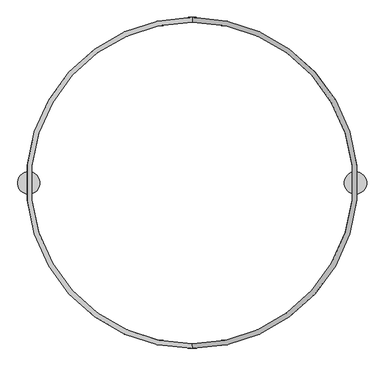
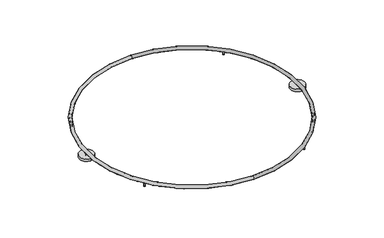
"""IFC4 building model written with IfcOpenShell, lengths in millimetres: light fixture geometry, ARTEMIDE-AoL-StandAlone-Circular_WallCeiling : StandALone_WallCeiling_Circular-3500mm 21478lm 3000K."""

from ifc_helpers import new_model, si_unit, point, frame, frame_2d, origin, origin_with_axes, origin_2d, place, context, project, spatial, polyline, circle_curve, ellipse_curve, trimmed, segment, composite_curve, outline, extrude, source, transform, mapped, element, save
from ifc_brep_helpers import plane_surface, cylinder_surface, revolved_surface, advanced_brep


def light_fixture_6dad4d7d(model_context):
    return source(origin(), model_context, "Body", "SolidModel", [
        advanced_brep(
        [(3444.5, 0.0, 0.0), (3455.5, 0.0, 0.0), (3450.0, 0.0, 0.0), (3444.5, 0.0, 1.0), (3455.5, 0.0, 1.0), (3438.0, 0.0, 1.0), (3462.0, 0.0, 1.0), (3438.0, 0.0, 42.5), (3462.0, 0.0, 42.5), (3440.4756244, 0.0, 42.5), (3459.5243756, 0.0, 42.5), (3440.4756244, 0.0, 43.4995055), (3459.5243756, 0.0, 43.4995055), (3438.0, 0.0, 43.4995055), (3462.0, 0.0, 43.4995055), (3438.0, 0.0, 52.9579379), (3462.0, 0.0, 52.9579379), (3450.0, 0.0, 52.9579379)],
        [
            (0, 1, circle_curve(frame((3450.0, 0.0, 0.0), z_axis=(0.0, 0.0, -1.0), x_axis=(1.0, 0.0, 0.0)), 5.5)),
            (1, 2),
            (2, 0),
            (1, 0, circle_curve(frame((3450.0, 0.0, 0.0), z_axis=(0.0, 0.0, -1.0), x_axis=(1.0, 0.0, 0.0)), 5.5)),
            (3, 4, circle_curve(frame((3450.0, 0.0, 1.0), z_axis=(0.0, 0.0, -1.0), x_axis=(1.0, 0.0, 0.0)), 5.5)),
            (4, 1),
            (0, 3),
            (4, 3, circle_curve(frame((3450.0, 0.0, 1.0), z_axis=(0.0, 0.0, -1.0), x_axis=(1.0, 0.0, 0.0)), 5.5)),
            (5, 6, circle_curve(frame((3450.0, 0.0, 1.0), z_axis=(0.0, 0.0, -1.0), x_axis=(1.0, 0.0, 0.0)), 12.0)),
            (6, 4),
            (3, 5),
            (6, 5, circle_curve(frame((3450.0, 0.0, 1.0), z_axis=(0.0, 0.0, -1.0), x_axis=(1.0, 0.0, 0.0)), 12.0)),
            (7, 8, circle_curve(frame((3450.0, 0.0, 42.5), z_axis=(0.0, 0.0, -1.0), x_axis=(1.0, 0.0, 0.0)), 12.0)),
            (8, 6),
            (5, 7),
            (8, 7, circle_curve(frame((3450.0, 0.0, 42.5), z_axis=(0.0, 0.0, -1.0), x_axis=(1.0, 0.0, 0.0)), 12.0)),
            (9, 10, circle_curve(frame((3450.0, 0.0, 42.5), z_axis=(0.0, 0.0, -1.0), x_axis=(1.0, 0.0, 0.0)), 9.5243756)),
            (10, 8),
            (7, 9),
            (10, 9, circle_curve(frame((3450.0, 0.0, 42.5), z_axis=(0.0, 0.0, -1.0), x_axis=(1.0, 0.0, 0.0)), 9.5243756)),
            (11, 12, circle_curve(frame((3450.0, 0.0, 43.4995055), z_axis=(0.0, 0.0, -1.0), x_axis=(1.0, 0.0, 0.0)), 9.5243756)),
            (12, 10),
            (9, 11),
            (12, 11, circle_curve(frame((3450.0, 0.0, 43.4995055), z_axis=(0.0, 0.0, -1.0), x_axis=(1.0, 0.0, 0.0)), 9.5243756)),
            (13, 14, circle_curve(frame((3450.0, 0.0, 43.4995055), z_axis=(0.0, 0.0, -1.0), x_axis=(1.0, 0.0, 0.0)), 12.0)),
            (14, 12),
            (11, 13),
            (14, 13, circle_curve(frame((3450.0, 0.0, 43.4995055), z_axis=(0.0, 0.0, -1.0), x_axis=(1.0, 0.0, 0.0)), 12.0)),
            (15, 16, circle_curve(frame((3450.0, 0.0, 52.9579379), z_axis=(0.0, 0.0, -1.0), x_axis=(1.0, 0.0, 0.0)), 12.0)),
            (16, 14),
            (13, 15),
            (16, 15, circle_curve(frame((3450.0, 0.0, 52.9579379), z_axis=(0.0, 0.0, -1.0), x_axis=(1.0, 0.0, 0.0)), 12.0)),
            (17, 16),
            (15, 17),
        ],
        [
            plane_surface(frame((3450.0, 0.0, 0.0), z_axis=(0.0, 0.0, -1.0), x_axis=(1.0, 0.0, 0.0))),
            cylinder_surface(frame((3450.0, 0.0, -58.83358), z_axis=(0.0, 0.0, 1.0), x_axis=(1.0, 0.0, 0.0)), 5.5),
            plane_surface(frame((3450.0, 0.0, 1.0), z_axis=(0.0, 0.0, -1.0), x_axis=(1.0, 0.0, 0.0))),
            cylinder_surface(frame((3450.0, 0.0, -58.83358), z_axis=(0.0, 0.0, 1.0), x_axis=(1.0, 0.0, 0.0)), 12.0),
            plane_surface(frame((3450.0, 0.0, 42.5), z_axis=(0.0, 0.0, 1.0), x_axis=(1.0, 0.0, 0.0))),
            cylinder_surface(frame((3450.0, 0.0, -58.83358), z_axis=(0.0, 0.0, 1.0), x_axis=(1.0, 0.0, 0.0)), 9.5243756),
            plane_surface(frame((3450.0, 0.0, 43.4995055), z_axis=(0.0, 0.0, -1.0), x_axis=(1.0, 0.0, 0.0))),
            plane_surface(frame((3450.0, 0.0, 52.9579379), z_axis=(0.0, 0.0, 1.0), x_axis=(1.0, 0.0, 0.0))),
        ],
        [
            (0, [[1, 2, 3]]),
            (0, [[4, -3, -2]]),
            (1, [[5, 6, -1, 7]]),
            (1, [[8, -7, -4, -6]]),
            (2, [[9, 10, -5, 11]]),
            (2, [[12, -11, -8, -10]]),
            (3, [[13, 14, -9, 15]]),
            (3, [[16, -15, -12, -14]]),
            (4, [[17, 18, -13, 19]]),
            (4, [[20, -19, -16, -18]]),
            (5, [[21, 22, -17, 23]]),
            (5, [[24, -23, -20, -22]]),
            (6, [[25, 26, -21, 27]]),
            (6, [[28, -27, -24, -26]]),
            (3, [[29, 30, -25, 31]]),
            (3, [[32, -31, -28, -30]]),
            (7, [[33, -29, 34]]),
            (7, [[-34, -32, -33]]),
        ],
    ),
        advanced_brep(
        [(-5.5, 0.0, 0.0), (5.5, 0.0, 0.0), (0.0, 0.0, 0.0), (-5.5, 0.0, 1.0), (5.5, 0.0, 1.0), (-12.0, 0.0, 1.0), (12.0, 0.0, 1.0), (-12.0, 0.0, 42.5), (12.0, 0.0, 42.5), (-9.5243756, 0.0, 42.5), (9.5243756, 0.0, 42.5), (-9.5243756, 0.0, 43.4995055), (9.5243756, 0.0, 43.4995055), (-12.0, 0.0, 43.4995055), (12.0, 0.0, 43.4995055), (-12.0, 0.0, 52.9579379), (12.0, 0.0, 52.9579379), (0.0, 0.0, 52.9579379)],
        [
            (0, 1, circle_curve(frame((0.0, 0.0, 0.0), z_axis=(0.0, 0.0, -1.0), x_axis=(1.0, 0.0, 0.0)), 5.5)),
            (1, 2),
            (2, 0),
            (1, 0, circle_curve(frame((0.0, 0.0, 0.0), z_axis=(0.0, 0.0, -1.0), x_axis=(1.0, 0.0, 0.0)), 5.5)),
            (3, 4, circle_curve(frame((0.0, 0.0, 1.0), z_axis=(0.0, 0.0, -1.0), x_axis=(1.0, 0.0, 0.0)), 5.5)),
            (4, 1),
            (0, 3),
            (4, 3, circle_curve(frame((0.0, 0.0, 1.0), z_axis=(0.0, 0.0, -1.0), x_axis=(1.0, 0.0, 0.0)), 5.5)),
            (5, 6, circle_curve(frame((0.0, 0.0, 1.0), z_axis=(0.0, 0.0, -1.0), x_axis=(1.0, 0.0, 0.0)), 12.0)),
            (6, 4),
            (3, 5),
            (6, 5, circle_curve(frame((0.0, 0.0, 1.0), z_axis=(0.0, 0.0, -1.0), x_axis=(1.0, 0.0, 0.0)), 12.0)),
            (7, 8, circle_curve(frame((0.0, 0.0, 42.5), z_axis=(0.0, 0.0, -1.0), x_axis=(1.0, 0.0, 0.0)), 12.0)),
            (8, 6),
            (5, 7),
            (8, 7, circle_curve(frame((0.0, 0.0, 42.5), z_axis=(0.0, 0.0, -1.0), x_axis=(1.0, 0.0, 0.0)), 12.0)),
            (9, 10, circle_curve(frame((0.0, 0.0, 42.5), z_axis=(0.0, 0.0, -1.0), x_axis=(1.0, 0.0, 0.0)), 9.5243756)),
            (10, 8),
            (7, 9),
            (10, 9, circle_curve(frame((0.0, 0.0, 42.5), z_axis=(0.0, 0.0, -1.0), x_axis=(1.0, 0.0, 0.0)), 9.5243756)),
            (11, 12, circle_curve(frame((0.0, 0.0, 43.4995055), z_axis=(0.0, 0.0, -1.0), x_axis=(1.0, 0.0, 0.0)), 9.5243756)),
            (12, 10),
            (9, 11),
            (12, 11, circle_curve(frame((0.0, 0.0, 43.4995055), z_axis=(0.0, 0.0, -1.0), x_axis=(1.0, 0.0, 0.0)), 9.5243756)),
            (13, 14, circle_curve(frame((0.0, 0.0, 43.4995055), z_axis=(0.0, 0.0, -1.0), x_axis=(1.0, 0.0, 0.0)), 12.0)),
            (14, 12),
            (11, 13),
            (14, 13, circle_curve(frame((0.0, 0.0, 43.4995055), z_axis=(0.0, 0.0, -1.0), x_axis=(1.0, 0.0, 0.0)), 12.0)),
            (15, 16, circle_curve(frame((0.0, 0.0, 52.9579379), z_axis=(0.0, 0.0, -1.0), x_axis=(1.0, 0.0, 0.0)), 12.0)),
            (16, 14),
            (13, 15),
            (16, 15, circle_curve(frame((0.0, 0.0, 52.9579379), z_axis=(0.0, 0.0, -1.0), x_axis=(1.0, 0.0, 0.0)), 12.0)),
            (17, 16),
            (15, 17),
        ],
        [
            plane_surface(frame((0.0, 0.0, 0.0), z_axis=(0.0, 0.0, -1.0), x_axis=(1.0, 0.0, 0.0))),
            cylinder_surface(frame((0.0, 0.0, -58.83358), z_axis=(0.0, 0.0, 1.0), x_axis=(1.0, 0.0, 0.0)), 5.5),
            plane_surface(frame((0.0, 0.0, 1.0), z_axis=(0.0, 0.0, -1.0), x_axis=(1.0, 0.0, 0.0))),
            cylinder_surface(frame((0.0, 0.0, -58.83358), z_axis=(0.0, 0.0, 1.0), x_axis=(1.0, 0.0, 0.0)), 12.0),
            plane_surface(frame((0.0, 0.0, 42.5), z_axis=(0.0, 0.0, 1.0), x_axis=(1.0, 0.0, 0.0))),
            cylinder_surface(frame((0.0, 0.0, -58.83358), z_axis=(0.0, 0.0, 1.0), x_axis=(1.0, 0.0, 0.0)), 9.5243756),
            plane_surface(frame((0.0, 0.0, 43.4995055), z_axis=(0.0, 0.0, -1.0), x_axis=(1.0, 0.0, 0.0))),
            plane_surface(frame((0.0, 0.0, 52.9579379), z_axis=(0.0, 0.0, 1.0), x_axis=(1.0, 0.0, 0.0))),
        ],
        [
            (0, [[1, 2, 3]]),
            (0, [[4, -3, -2]]),
            (1, [[5, 6, -1, 7]]),
            (1, [[8, -7, -4, -6]]),
            (2, [[9, 10, -5, 11]]),
            (2, [[12, -11, -8, -10]]),
            (3, [[13, 14, -9, 15]]),
            (3, [[16, -15, -12, -14]]),
            (4, [[17, 18, -13, 19]]),
            (4, [[20, -19, -16, -18]]),
            (5, [[21, 22, -17, 23]]),
            (5, [[24, -23, -20, -22]]),
            (6, [[25, 26, -21, 27]]),
            (6, [[28, -27, -24, -26]]),
            (3, [[29, 30, -25, 31]]),
            (3, [[32, -31, -28, -30]]),
            (7, [[33, -29, 34]]),
            (7, [[-34, -32, -33]]),
        ],
    ),
        extrude(outline(composite_curve([segment(trimmed(circle_curve(frame_2d((3450.0, 0.0)), 118.5), [point((3450.0, 118.5))], [point((3450.0, -118.5))], False, "CARTESIAN"), True, "CONTINUOUS"), segment(trimmed(circle_curve(frame_2d((3450.0, 0.0)), 118.5), [point((3450.0, -118.5))], [point((3450.0, 118.5))], False, "CARTESIAN"), True, "CONTINUOUS")], self_intersect=False)), origin_with_axes(), (0.0, 0.0, 1.0), 42.0),
        advanced_brep(
        [(510.5, 1219.7591975, 0.0), (499.5, 1219.7591975, 0.0), (505.0, 1219.7591975, 0.0), (510.5, 1219.7591975, 1.0), (499.5, 1219.7591975, 1.0), (517.0, 1219.7591975, 1.0), (493.0, 1219.7591975, 1.0), (517.0, 1219.7591975, 42.5), (493.0, 1219.7591975, 42.5), (514.5243756, 1219.7591975, 42.5), (495.4756244, 1219.7591975, 42.5), (514.5243756, 1219.7591975, 43.4995055), (495.4756244, 1219.7591975, 43.4995055), (517.0, 1219.7591975, 43.4995055), (493.0, 1219.7591975, 43.4995055), (517.0, 1219.7591975, 52.9579379), (493.0, 1219.7591975, 52.9579379), (505.0, 1219.7591975, 52.9579379)],
        [
            (0, 1, circle_curve(frame((505.0, 1219.7591975, 0.0), z_axis=(0.0, 0.0, -1.0), x_axis=(-1.0, 0.0, 0.0)), 5.5)),
            (1, 2),
            (2, 0),
            (1, 0, circle_curve(frame((505.0, 1219.7591975, 0.0), z_axis=(0.0, 0.0, -1.0), x_axis=(-1.0, 0.0, 0.0)), 5.5)),
            (3, 4, circle_curve(frame((505.0, 1219.7591975, 1.0), z_axis=(0.0, 0.0, -1.0), x_axis=(-1.0, 0.0, 0.0)), 5.5)),
            (4, 1),
            (0, 3),
            (4, 3, circle_curve(frame((505.0, 1219.7591975, 1.0), z_axis=(0.0, 0.0, -1.0), x_axis=(-1.0, 0.0, 0.0)), 5.5)),
            (5, 6, circle_curve(frame((505.0, 1219.7591975, 1.0), z_axis=(0.0, 0.0, -1.0), x_axis=(-1.0, 0.0, 0.0)), 12.0)),
            (6, 4),
            (3, 5),
            (6, 5, circle_curve(frame((505.0, 1219.7591975, 1.0), z_axis=(0.0, 0.0, -1.0), x_axis=(-1.0, 0.0, 0.0)), 12.0)),
            (7, 8, circle_curve(frame((505.0, 1219.7591975, 42.5), z_axis=(0.0, 0.0, -1.0), x_axis=(-1.0, 0.0, 0.0)), 12.0)),
            (8, 6),
            (5, 7),
            (8, 7, circle_curve(frame((505.0, 1219.7591975, 42.5), z_axis=(0.0, 0.0, -1.0), x_axis=(-1.0, 0.0, 0.0)), 12.0)),
            (9, 10, circle_curve(frame((505.0, 1219.7591975, 42.5), z_axis=(0.0, 0.0, -1.0), x_axis=(-1.0, 0.0, 0.0)), 9.5243756)),
            (10, 8),
            (7, 9),
            (10, 9, circle_curve(frame((505.0, 1219.7591975, 42.5), z_axis=(0.0, 0.0, -1.0), x_axis=(-1.0, 0.0, 0.0)), 9.5243756)),
            (11, 12, circle_curve(frame((505.0, 1219.7591975, 43.4995055), z_axis=(0.0, 0.0, -1.0), x_axis=(-1.0, 0.0, 0.0)), 9.5243756)),
            (12, 10),
            (9, 11),
            (12, 11, circle_curve(frame((505.0, 1219.7591975, 43.4995055), z_axis=(0.0, 0.0, -1.0), x_axis=(-1.0, 0.0, 0.0)), 9.5243756)),
            (13, 14, circle_curve(frame((505.0, 1219.7591975, 43.4995055), z_axis=(0.0, 0.0, -1.0), x_axis=(-1.0, 0.0, 0.0)), 12.0)),
            (14, 12),
            (11, 13),
            (14, 13, circle_curve(frame((505.0, 1219.7591975, 43.4995055), z_axis=(0.0, 0.0, -1.0), x_axis=(-1.0, 0.0, 0.0)), 12.0)),
            (15, 16, circle_curve(frame((505.0, 1219.7591975, 52.9579379), z_axis=(0.0, 0.0, -1.0), x_axis=(-1.0, 0.0, 0.0)), 12.0)),
            (16, 14),
            (13, 15),
            (16, 15, circle_curve(frame((505.0, 1219.7591975, 52.9579379), z_axis=(0.0, 0.0, -1.0), x_axis=(-1.0, 0.0, 0.0)), 12.0)),
            (17, 16),
            (15, 17),
        ],
        [
            plane_surface(frame((505.0, 1219.7591975, 0.0), z_axis=(0.0, 0.0, -1.0), x_axis=(-1.0, 0.0, 0.0))),
            cylinder_surface(frame((505.0, 1219.7591975, -58.83358), z_axis=(0.0, 0.0, 1.0), x_axis=(-1.0, 0.0, 0.0)), 5.5),
            plane_surface(frame((505.0, 1219.7591975, 1.0), z_axis=(0.0, 0.0, -1.0), x_axis=(-1.0, 0.0, 0.0))),
            cylinder_surface(frame((505.0, 1219.7591975, -58.83358), z_axis=(0.0, 0.0, 1.0), x_axis=(-1.0, 0.0, 0.0)), 12.0),
            plane_surface(frame((505.0, 1219.7591975, 42.5), z_axis=(0.0, 0.0, 1.0), x_axis=(-1.0, 0.0, 0.0))),
            cylinder_surface(frame((505.0, 1219.7591975, -58.83358), z_axis=(0.0, 0.0, 1.0), x_axis=(-1.0, 0.0, 0.0)), 9.5243756),
            plane_surface(frame((505.0, 1219.7591975, 43.4995055), z_axis=(0.0, 0.0, -1.0), x_axis=(-1.0, 0.0, 0.0))),
            plane_surface(frame((505.0, 1219.7591975, 52.9579379), z_axis=(0.0, 0.0, 1.0), x_axis=(-1.0, 0.0, 0.0))),
        ],
        [
            (0, [[1, 2, 3]]),
            (0, [[4, -3, -2]]),
            (1, [[5, 6, -1, 7]]),
            (1, [[8, -7, -4, -6]]),
            (2, [[9, 10, -5, 11]]),
            (2, [[12, -11, -8, -10]]),
            (3, [[13, 14, -9, 15]]),
            (3, [[16, -15, -12, -14]]),
            (4, [[17, 18, -13, 19]]),
            (4, [[20, -19, -16, -18]]),
            (5, [[21, 22, -17, 23]]),
            (5, [[24, -23, -20, -22]]),
            (6, [[25, 26, -21, 27]]),
            (6, [[28, -27, -24, -26]]),
            (3, [[29, 30, -25, 31]]),
            (3, [[32, -31, -28, -30]]),
            (7, [[33, -29, 34]]),
            (7, [[-34, -32, -33]]),
        ],
    ),
        advanced_brep(
        [(2950.5, 1219.7591975, 0.0), (2939.5, 1219.7591975, 0.0), (2945.0, 1219.7591975, 0.0), (2950.5, 1219.7591975, 1.0), (2939.5, 1219.7591975, 1.0), (2957.0, 1219.7591975, 1.0), (2933.0, 1219.7591975, 1.0), (2957.0, 1219.7591975, 42.5), (2933.0, 1219.7591975, 42.5), (2954.5243756, 1219.7591975, 42.5), (2935.4756244, 1219.7591975, 42.5), (2954.5243756, 1219.7591975, 43.4995055), (2935.4756244, 1219.7591975, 43.4995055), (2957.0, 1219.7591975, 43.4995055), (2933.0, 1219.7591975, 43.4995055), (2957.0, 1219.7591975, 52.9579379), (2933.0, 1219.7591975, 52.9579379), (2945.0, 1219.7591975, 52.9579379)],
        [
            (0, 1, circle_curve(frame((2945.0, 1219.7591975, 0.0), z_axis=(0.0, 0.0, -1.0), x_axis=(-1.0, 0.0, 0.0)), 5.5)),
            (1, 2),
            (2, 0),
            (1, 0, circle_curve(frame((2945.0, 1219.7591975, 0.0), z_axis=(0.0, 0.0, -1.0), x_axis=(-1.0, 0.0, 0.0)), 5.5)),
            (3, 4, circle_curve(frame((2945.0, 1219.7591975, 1.0), z_axis=(0.0, 0.0, -1.0), x_axis=(-1.0, 0.0, 0.0)), 5.5)),
            (4, 1),
            (0, 3),
            (4, 3, circle_curve(frame((2945.0, 1219.7591975, 1.0), z_axis=(0.0, 0.0, -1.0), x_axis=(-1.0, 0.0, 0.0)), 5.5)),
            (5, 6, circle_curve(frame((2945.0, 1219.7591975, 1.0), z_axis=(0.0, 0.0, -1.0), x_axis=(-1.0, 0.0, 0.0)), 12.0)),
            (6, 4),
            (3, 5),
            (6, 5, circle_curve(frame((2945.0, 1219.7591975, 1.0), z_axis=(0.0, 0.0, -1.0), x_axis=(-1.0, 0.0, 0.0)), 12.0)),
            (7, 8, circle_curve(frame((2945.0, 1219.7591975, 42.5), z_axis=(0.0, 0.0, -1.0), x_axis=(-1.0, 0.0, 0.0)), 12.0)),
            (8, 6),
            (5, 7),
            (8, 7, circle_curve(frame((2945.0, 1219.7591975, 42.5), z_axis=(0.0, 0.0, -1.0), x_axis=(-1.0, 0.0, 0.0)), 12.0)),
            (9, 10, circle_curve(frame((2945.0, 1219.7591975, 42.5), z_axis=(0.0, 0.0, -1.0), x_axis=(-1.0, 0.0, 0.0)), 9.5243756)),
            (10, 8),
            (7, 9),
            (10, 9, circle_curve(frame((2945.0, 1219.7591975, 42.5), z_axis=(0.0, 0.0, -1.0), x_axis=(-1.0, 0.0, 0.0)), 9.5243756)),
            (11, 12, circle_curve(frame((2945.0, 1219.7591975, 43.4995055), z_axis=(0.0, 0.0, -1.0), x_axis=(-1.0, 0.0, 0.0)), 9.5243756)),
            (12, 10),
            (9, 11),
            (12, 11, circle_curve(frame((2945.0, 1219.7591975, 43.4995055), z_axis=(0.0, 0.0, -1.0), x_axis=(-1.0, 0.0, 0.0)), 9.5243756)),
            (13, 14, circle_curve(frame((2945.0, 1219.7591975, 43.4995055), z_axis=(0.0, 0.0, -1.0), x_axis=(-1.0, 0.0, 0.0)), 12.0)),
            (14, 12),
            (11, 13),
            (14, 13, circle_curve(frame((2945.0, 1219.7591975, 43.4995055), z_axis=(0.0, 0.0, -1.0), x_axis=(-1.0, 0.0, 0.0)), 12.0)),
            (15, 16, circle_curve(frame((2945.0, 1219.7591975, 52.9579379), z_axis=(0.0, 0.0, -1.0), x_axis=(-1.0, 0.0, 0.0)), 12.0)),
            (16, 14),
            (13, 15),
            (16, 15, circle_curve(frame((2945.0, 1219.7591975, 52.9579379), z_axis=(0.0, 0.0, -1.0), x_axis=(-1.0, 0.0, 0.0)), 12.0)),
            (17, 16),
            (15, 17),
        ],
        [
            plane_surface(frame((2945.0, 1219.7591975, 0.0), z_axis=(0.0, 0.0, -1.0), x_axis=(-1.0, 0.0, 0.0))),
            cylinder_surface(frame((2945.0, 1219.7591975, -58.83358), z_axis=(0.0, 0.0, 1.0), x_axis=(-1.0, 0.0, 0.0)), 5.5),
            plane_surface(frame((2945.0, 1219.7591975, 1.0), z_axis=(0.0, 0.0, -1.0), x_axis=(-1.0, 0.0, 0.0))),
            cylinder_surface(frame((2945.0, 1219.7591975, -58.83358), z_axis=(0.0, 0.0, 1.0), x_axis=(-1.0, 0.0, 0.0)), 12.0),
            plane_surface(frame((2945.0, 1219.7591975, 42.5), z_axis=(0.0, 0.0, 1.0), x_axis=(-1.0, 0.0, 0.0))),
            cylinder_surface(frame((2945.0, 1219.7591975, -58.83358), z_axis=(0.0, 0.0, 1.0), x_axis=(-1.0, 0.0, 0.0)), 9.5243756),
            plane_surface(frame((2945.0, 1219.7591975, 43.4995055), z_axis=(0.0, 0.0, -1.0), x_axis=(-1.0, 0.0, 0.0))),
            plane_surface(frame((2945.0, 1219.7591975, 52.9579379), z_axis=(0.0, 0.0, 1.0), x_axis=(-1.0, 0.0, 0.0))),
        ],
        [
            (0, [[1, 2, 3]]),
            (0, [[4, -3, -2]]),
            (1, [[5, 6, -1, 7]]),
            (1, [[8, -7, -4, -6]]),
            (2, [[9, 10, -5, 11]]),
            (2, [[12, -11, -8, -10]]),
            (3, [[13, 14, -9, 15]]),
            (3, [[16, -15, -12, -14]]),
            (4, [[17, 18, -13, 19]]),
            (4, [[20, -19, -16, -18]]),
            (5, [[21, 22, -17, 23]]),
            (5, [[24, -23, -20, -22]]),
            (6, [[25, 26, -21, 27]]),
            (6, [[28, -27, -24, -26]]),
            (3, [[29, 30, -25, 31]]),
            (3, [[32, -31, -28, -30]]),
            (7, [[33, -29, 34]]),
            (7, [[-34, -32, -33]]),
        ],
    ),
        advanced_brep(
        [(355.5, -1038.0, 0.0), (344.5, -1038.0, 0.0), (350.0, -1038.0, 0.0), (355.5, -1038.0, 1.0), (344.5, -1038.0, 1.0), (362.0, -1038.0, 1.0), (338.0, -1038.0, 1.0), (362.0, -1038.0, 42.5), (338.0, -1038.0, 42.5), (359.5243756, -1038.0, 42.5), (340.4756244, -1038.0, 42.5), (359.5243756, -1038.0, 43.4995055), (340.4756244, -1038.0, 43.4995055), (362.0, -1038.0, 43.4995055), (338.0, -1038.0, 43.4995055), (362.0, -1038.0, 52.9579379), (338.0, -1038.0, 52.9579379), (350.0, -1038.0, 52.9579379)],
        [
            (0, 1, circle_curve(frame((350.0, -1038.0, 0.0), z_axis=(0.0, 0.0, -1.0), x_axis=(-1.0, 0.0, 0.0)), 5.5)),
            (1, 2),
            (2, 0),
            (1, 0, circle_curve(frame((350.0, -1038.0, 0.0), z_axis=(0.0, 0.0, -1.0), x_axis=(-1.0, 0.0, 0.0)), 5.5)),
            (3, 4, circle_curve(frame((350.0, -1038.0, 1.0), z_axis=(0.0, 0.0, -1.0), x_axis=(-1.0, 0.0, 0.0)), 5.5)),
            (4, 1),
            (0, 3),
            (4, 3, circle_curve(frame((350.0, -1038.0, 1.0), z_axis=(0.0, 0.0, -1.0), x_axis=(-1.0, 0.0, 0.0)), 5.5)),
            (5, 6, circle_curve(frame((350.0, -1038.0, 1.0), z_axis=(0.0, 0.0, -1.0), x_axis=(-1.0, 0.0, 0.0)), 12.0)),
            (6, 4),
            (3, 5),
            (6, 5, circle_curve(frame((350.0, -1038.0, 1.0), z_axis=(0.0, 0.0, -1.0), x_axis=(-1.0, 0.0, 0.0)), 12.0)),
            (7, 8, circle_curve(frame((350.0, -1038.0, 42.5), z_axis=(0.0, 0.0, -1.0), x_axis=(-1.0, 0.0, 0.0)), 12.0)),
            (8, 6),
            (5, 7),
            (8, 7, circle_curve(frame((350.0, -1038.0, 42.5), z_axis=(0.0, 0.0, -1.0), x_axis=(-1.0, 0.0, 0.0)), 12.0)),
            (9, 10, circle_curve(frame((350.0, -1038.0, 42.5), z_axis=(0.0, 0.0, -1.0), x_axis=(-1.0, 0.0, 0.0)), 9.5243756)),
            (10, 8),
            (7, 9),
            (10, 9, circle_curve(frame((350.0, -1038.0, 42.5), z_axis=(0.0, 0.0, -1.0), x_axis=(-1.0, 0.0, 0.0)), 9.5243756)),
            (11, 12, circle_curve(frame((350.0, -1038.0, 43.4995055), z_axis=(0.0, 0.0, -1.0), x_axis=(-1.0, 0.0, 0.0)), 9.5243756)),
            (12, 10),
            (9, 11),
            (12, 11, circle_curve(frame((350.0, -1038.0, 43.4995055), z_axis=(0.0, 0.0, -1.0), x_axis=(-1.0, 0.0, 0.0)), 9.5243756)),
            (13, 14, circle_curve(frame((350.0, -1038.0, 43.4995055), z_axis=(0.0, 0.0, -1.0), x_axis=(-1.0, 0.0, 0.0)), 12.0)),
            (14, 12),
            (11, 13),
            (14, 13, circle_curve(frame((350.0, -1038.0, 43.4995055), z_axis=(0.0, 0.0, -1.0), x_axis=(-1.0, 0.0, 0.0)), 12.0)),
            (15, 16, circle_curve(frame((350.0, -1038.0, 52.9579379), z_axis=(0.0, 0.0, -1.0), x_axis=(-1.0, 0.0, 0.0)), 12.0)),
            (16, 14),
            (13, 15),
            (16, 15, circle_curve(frame((350.0, -1038.0, 52.9579379), z_axis=(0.0, 0.0, -1.0), x_axis=(-1.0, 0.0, 0.0)), 12.0)),
            (17, 16),
            (15, 17),
        ],
        [
            plane_surface(frame((350.0, -1038.0, 0.0), z_axis=(0.0, 0.0, -1.0), x_axis=(-1.0, 0.0, 0.0))),
            cylinder_surface(frame((350.0, -1038.0, -58.83358), z_axis=(0.0, 0.0, 1.0), x_axis=(-1.0, 0.0, 0.0)), 5.5),
            plane_surface(frame((350.0, -1038.0, 1.0), z_axis=(0.0, 0.0, -1.0), x_axis=(-1.0, 0.0, 0.0))),
            cylinder_surface(frame((350.0, -1038.0, -58.83358), z_axis=(0.0, 0.0, 1.0), x_axis=(-1.0, 0.0, 0.0)), 12.0),
            plane_surface(frame((350.0, -1038.0, 42.5), z_axis=(0.0, 0.0, 1.0), x_axis=(-1.0, 0.0, 0.0))),
            cylinder_surface(frame((350.0, -1038.0, -58.83358), z_axis=(0.0, 0.0, 1.0), x_axis=(-1.0, 0.0, 0.0)), 9.5243756),
            plane_surface(frame((350.0, -1038.0, 43.4995055), z_axis=(0.0, 0.0, -1.0), x_axis=(-1.0, 0.0, 0.0))),
            plane_surface(frame((350.0, -1038.0, 52.9579379), z_axis=(0.0, 0.0, 1.0), x_axis=(-1.0, 0.0, 0.0))),
        ],
        [
            (0, [[1, 2, 3]]),
            (0, [[4, -3, -2]]),
            (1, [[5, 6, -1, 7]]),
            (1, [[8, -7, -4, -6]]),
            (2, [[9, 10, -5, 11]]),
            (2, [[12, -11, -8, -10]]),
            (3, [[13, 14, -9, 15]]),
            (3, [[16, -15, -12, -14]]),
            (4, [[17, 18, -13, 19]]),
            (4, [[20, -19, -16, -18]]),
            (5, [[21, 22, -17, 23]]),
            (5, [[24, -23, -20, -22]]),
            (6, [[25, 26, -21, 27]]),
            (6, [[28, -27, -24, -26]]),
            (3, [[29, 30, -25, 31]]),
            (3, [[32, -31, -28, -30]]),
            (7, [[33, -29, 34]]),
            (7, [[-34, -32, -33]]),
        ],
    ),
        advanced_brep(
        [(2765.5, -1377.5, 0.0), (2754.5, -1377.5, 0.0), (2760.0, -1377.5, 0.0), (2765.5, -1377.5, 1.0), (2754.5, -1377.5, 1.0), (2772.0, -1377.5, 1.0), (2748.0, -1377.5, 1.0), (2772.0, -1377.5, 42.5), (2748.0, -1377.5, 42.5), (2769.5243756, -1377.5, 42.5), (2750.4756244, -1377.5, 42.5), (2769.5243756, -1377.5, 43.4995055), (2750.4756244, -1377.5, 43.4995055), (2772.0, -1377.5, 43.4995055), (2748.0, -1377.5, 43.4995055), (2772.0, -1377.5, 52.9579379), (2748.0, -1377.5, 52.9579379), (2760.0, -1377.5, 52.9579379)],
        [
            (0, 1, circle_curve(frame((2760.0, -1377.5, 0.0), z_axis=(0.0, 0.0, -1.0), x_axis=(-1.0, 0.0, 0.0)), 5.5)),
            (1, 2),
            (2, 0),
            (1, 0, circle_curve(frame((2760.0, -1377.5, 0.0), z_axis=(0.0, 0.0, -1.0), x_axis=(-1.0, 0.0, 0.0)), 5.5)),
            (3, 4, circle_curve(frame((2760.0, -1377.5, 1.0), z_axis=(0.0, 0.0, -1.0), x_axis=(-1.0, 0.0, 0.0)), 5.5)),
            (4, 1),
            (0, 3),
            (4, 3, circle_curve(frame((2760.0, -1377.5, 1.0), z_axis=(0.0, 0.0, -1.0), x_axis=(-1.0, 0.0, 0.0)), 5.5)),
            (5, 6, circle_curve(frame((2760.0, -1377.5, 1.0), z_axis=(0.0, 0.0, -1.0), x_axis=(-1.0, 0.0, 0.0)), 12.0)),
            (6, 4),
            (3, 5),
            (6, 5, circle_curve(frame((2760.0, -1377.5, 1.0), z_axis=(0.0, 0.0, -1.0), x_axis=(-1.0, 0.0, 0.0)), 12.0)),
            (7, 8, circle_curve(frame((2760.0, -1377.5, 42.5), z_axis=(0.0, 0.0, -1.0), x_axis=(-1.0, 0.0, 0.0)), 12.0)),
            (8, 6),
            (5, 7),
            (8, 7, circle_curve(frame((2760.0, -1377.5, 42.5), z_axis=(0.0, 0.0, -1.0), x_axis=(-1.0, 0.0, 0.0)), 12.0)),
            (9, 10, circle_curve(frame((2760.0, -1377.5, 42.5), z_axis=(0.0, 0.0, -1.0), x_axis=(-1.0, 0.0, 0.0)), 9.5243756)),
            (10, 8),
            (7, 9),
            (10, 9, circle_curve(frame((2760.0, -1377.5, 42.5), z_axis=(0.0, 0.0, -1.0), x_axis=(-1.0, 0.0, 0.0)), 9.5243756)),
            (11, 12, circle_curve(frame((2760.0, -1377.5, 43.4995055), z_axis=(0.0, 0.0, -1.0), x_axis=(-1.0, 0.0, 0.0)), 9.5243756)),
            (12, 10),
            (9, 11),
            (12, 11, circle_curve(frame((2760.0, -1377.5, 43.4995055), z_axis=(0.0, 0.0, -1.0), x_axis=(-1.0, 0.0, 0.0)), 9.5243756)),
            (13, 14, circle_curve(frame((2760.0, -1377.5, 43.4995055), z_axis=(0.0, 0.0, -1.0), x_axis=(-1.0, 0.0, 0.0)), 12.0)),
            (14, 12),
            (11, 13),
            (14, 13, circle_curve(frame((2760.0, -1377.5, 43.4995055), z_axis=(0.0, 0.0, -1.0), x_axis=(-1.0, 0.0, 0.0)), 12.0)),
            (15, 16, circle_curve(frame((2760.0, -1377.5, 52.9579379), z_axis=(0.0, 0.0, -1.0), x_axis=(-1.0, 0.0, 0.0)), 12.0)),
            (16, 14),
            (13, 15),
            (16, 15, circle_curve(frame((2760.0, -1377.5, 52.9579379), z_axis=(0.0, 0.0, -1.0), x_axis=(-1.0, 0.0, 0.0)), 12.0)),
            (17, 16),
            (15, 17),
        ],
        [
            plane_surface(frame((2760.0, -1377.5, 0.0), z_axis=(0.0, 0.0, -1.0), x_axis=(-1.0, 0.0, 0.0))),
            cylinder_surface(frame((2760.0, -1377.5, -58.83358), z_axis=(0.0, 0.0, 1.0), x_axis=(-1.0, 0.0, 0.0)), 5.5),
            plane_surface(frame((2760.0, -1377.5, 1.0), z_axis=(0.0, 0.0, -1.0), x_axis=(-1.0, 0.0, 0.0))),
            cylinder_surface(frame((2760.0, -1377.5, -58.83358), z_axis=(0.0, 0.0, 1.0), x_axis=(-1.0, 0.0, 0.0)), 12.0),
            plane_surface(frame((2760.0, -1377.5, 42.5), z_axis=(0.0, 0.0, 1.0), x_axis=(-1.0, 0.0, 0.0))),
            cylinder_surface(frame((2760.0, -1377.5, -58.83358), z_axis=(0.0, 0.0, 1.0), x_axis=(-1.0, 0.0, 0.0)), 9.5243756),
            plane_surface(frame((2760.0, -1377.5, 43.4995055), z_axis=(0.0, 0.0, -1.0), x_axis=(-1.0, 0.0, 0.0))),
            plane_surface(frame((2760.0, -1377.5, 52.9579379), z_axis=(0.0, 0.0, 1.0), x_axis=(-1.0, 0.0, 0.0))),
        ],
        [
            (0, [[1, 2, 3]]),
            (0, [[4, -3, -2]]),
            (1, [[5, 6, -1, 7]]),
            (1, [[8, -7, -4, -6]]),
            (2, [[9, 10, -5, 11]]),
            (2, [[12, -11, -8, -10]]),
            (3, [[13, 14, -9, 15]]),
            (3, [[16, -15, -12, -14]]),
            (4, [[17, 18, -13, 19]]),
            (4, [[20, -19, -16, -18]]),
            (5, [[21, 22, -17, 23]]),
            (5, [[24, -23, -20, -22]]),
            (6, [[25, 26, -21, 27]]),
            (6, [[28, -27, -24, -26]]),
            (3, [[29, 30, -25, 31]]),
            (3, [[32, -31, -28, -30]]),
            (7, [[33, -29, 34]]),
            (7, [[-34, -32, -33]]),
        ],
    ),
        extrude(outline(composite_curve([segment(trimmed(circle_curve(origin_2d(), 118.5), [point((0.0, 118.5))], [point((0.0, -118.5))], False, "CARTESIAN"), True, "CONTINUOUS"), segment(trimmed(circle_curve(origin_2d(), 118.5), [point((0.0, -118.5))], [point((0.0, 118.5))], False, "CARTESIAN"), True, "CONTINUOUS")], self_intersect=False)), origin_with_axes(), (0.0, 0.0, 1.0), 42.0),
        advanced_brep(
        [(1725.3445739, -1713.1969999, 52.9151372), (1725.3445739, 1713.3030001, 52.9151372), (1725.3445739, 1736.8030001, 52.9151372), (1725.3445739, -1736.6969999, 52.9151372), (1725.3445739, -1713.1969999, 57.2410096), (1725.3445739, 1713.3030001, 57.2410096), (1725.3445739, -1711.2792459, 55.8106819), (1725.3445739, 1711.3852461, 55.8106819), (1725.3445739, 1711.3852461, 57.2410096), (1725.3445739, -1711.2792459, 57.2410096), (1725.3445739, -1709.3292459, 57.2258724), (1725.3445739, 1709.4352461, 57.2258724), (1725.3445739, -1709.3292459, 59.2258716), (1725.3445739, 1709.4352461, 59.2258716), (1725.3445739, -1712.2792459, 60.7258716), (1725.3445739, 1712.3852461, 60.7258716), (1725.3445739, 1712.3852461, 59.2258716), (1725.3445739, -1712.2792459, 59.2258716), (1725.3445739, -1742.2249794, 60.7258716), (1725.3445739, 1742.3309795, 60.7258716), (1725.3445739, 1707.7750206, 60.7258716), (1725.3445739, -1707.6690205, 60.7258716), (1725.3445739, -1737.6147539, 59.2258716), (1725.3445739, 1737.7207541, 59.2258716), (1725.3445739, 1737.7207541, 60.7258716), (1725.3445739, -1737.6147539, 60.7258716), (1725.3445739, -1740.5647539, 57.2258724), (1725.3445739, 1740.6707541, 57.2258724), (1725.3445739, 1740.6707541, 59.2258716), (1725.3445739, -1740.5647539, 59.2258716), (1725.3445739, -1738.6147539, 55.8106819), (1725.3445739, 1738.7207541, 55.8106819), (1725.3445739, -1738.6147539, 57.2410096), (1725.3445739, 1738.7207541, 57.2410096), (1725.3445739, 1736.8030001, 57.2410096), (1725.3445739, -1736.6969999, 57.2410096)],
        [
            (0, 1, circle_curve(frame((1725.3445739, 0.0530001, 52.9151372), z_axis=(0.0, 0.0, -1.0), x_axis=(0.0, 1.0, 0.0)), 1713.25)),
            (1, 2, circle_curve(frame((1725.3445739, 1725.0530001, 74.9817976), z_axis=(-1.0, 0.0, 0.0), x_axis=(0.0, -1.0, 0.0)), 25.0)),
            (2, 3, circle_curve(frame((1725.3445739, 0.0530001, 52.9151372), z_axis=(0.0, 0.0, 1.0), x_axis=(0.0, 1.0, 0.0)), 1736.75)),
            (3, 0, circle_curve(frame((1725.3445739, -1724.9469999, 74.9817976), z_axis=(-1.0, 0.0, 0.0), x_axis=(0.0, 1.0, 0.0)), 25.0)),
            (4, 5, circle_curve(frame((1725.3445739, 0.0530001, 57.2410096), z_axis=(0.0, 0.0, -1.0), x_axis=(0.0, 1.0, 0.0)), 1713.25)),
            (5, 1),
            (0, 4),
            (6, 7, circle_curve(frame((1725.3445739, 0.0530001, 55.8106819), z_axis=(0.0, 0.0, -1.0), x_axis=(0.0, 1.0, 0.0)), 1711.332246)),
            (7, 8),
            (8, 9, circle_curve(frame((1725.3445739, 0.0530001, 57.2410096), z_axis=(0.0, 0.0, 1.0), x_axis=(0.0, 1.0, 0.0)), 1711.332246)),
            (9, 6),
            (10, 11, circle_curve(frame((1725.3445739, 0.0530001, 57.2258724), z_axis=(0.0, 0.0, -1.0), x_axis=(0.0, 1.0, 0.0)), 1709.382246)),
            (11, 7),
            (6, 10),
            (12, 13, circle_curve(frame((1725.3445739, 0.0530001, 59.2258716), z_axis=(0.0, 0.0, -1.0), x_axis=(0.0, 1.0, 0.0)), 1709.382246)),
            (13, 11),
            (10, 12),
            (14, 15, circle_curve(frame((1725.3445739, 0.0530001, 60.7258716), z_axis=(0.0, 0.0, -1.0), x_axis=(0.0, 1.0, 0.0)), 1712.332246)),
            (15, 16),
            (16, 17, circle_curve(frame((1725.3445739, 0.0530001, 59.2258716), z_axis=(0.0, 0.0, 1.0), x_axis=(0.0, 1.0, 0.0)), 1712.332246)),
            (17, 14),
            (18, 19, circle_curve(frame((1725.3445739, 0.0530001, 60.7258716), z_axis=(0.0, 0.0, -1.0), x_axis=(0.0, 1.0, 0.0)), 1742.2779794)),
            (19, 20, circle_curve(frame((1725.3445739, 1725.0530001, 74.9817976), z_axis=(1.0, 0.0, 0.0), x_axis=(0.0, -1.0, 0.0)), 22.4)),
            (20, 21, circle_curve(frame((1725.3445739, 0.0530001, 60.7258716), z_axis=(0.0, 0.0, 1.0), x_axis=(0.0, 1.0, 0.0)), 1707.7220206)),
            (21, 18, circle_curve(frame((1725.3445739, -1724.9469999, 74.9817976), z_axis=(1.0, 0.0, 0.0), x_axis=(0.0, 1.0, 0.0)), 22.4)),
            (22, 23, circle_curve(frame((1725.3445739, 0.0530001, 59.2258716), z_axis=(0.0, 0.0, -1.0), x_axis=(0.0, 1.0, 0.0)), 1737.667754)),
            (23, 24),
            (24, 25, circle_curve(frame((1725.3445739, 0.0530001, 60.7258716), z_axis=(0.0, 0.0, 1.0), x_axis=(0.0, 1.0, 0.0)), 1737.667754)),
            (25, 22),
            (26, 27, circle_curve(frame((1725.3445739, 0.0530001, 57.2258724), z_axis=(0.0, 0.0, -1.0), x_axis=(0.0, 1.0, 0.0)), 1740.617754)),
            (27, 28),
            (28, 29, circle_curve(frame((1725.3445739, 0.0530001, 59.2258716), z_axis=(0.0, 0.0, 1.0), x_axis=(0.0, 1.0, 0.0)), 1740.617754)),
            (29, 26),
            (30, 31, circle_curve(frame((1725.3445739, 0.0530001, 55.8106819), z_axis=(0.0, 0.0, -1.0), x_axis=(0.0, 1.0, 0.0)), 1738.667754)),
            (31, 27),
            (26, 30),
            (32, 33, circle_curve(frame((1725.3445739, 0.0530001, 57.2410096), z_axis=(0.0, 0.0, -1.0), x_axis=(0.0, 1.0, 0.0)), 1738.667754)),
            (33, 31),
            (30, 32),
            (2, 34),
            (34, 35, circle_curve(frame((1725.3445739, 0.0530001, 57.2410096), z_axis=(0.0, 0.0, 1.0), x_axis=(0.0, 1.0, 0.0)), 1736.75)),
            (35, 3),
            (1, 0, circle_curve(frame((1725.3445739, 0.0530001, 52.9151372), z_axis=(0.0, 0.0, -1.0), x_axis=(0.0, -1.0, 0.0)), 1713.25)),
            (3, 2, circle_curve(frame((1725.3445739, 0.0530001, 52.9151372), z_axis=(0.0, 0.0, 1.0), x_axis=(0.0, -1.0, 0.0)), 1736.75)),
            (5, 4, circle_curve(frame((1725.3445739, 0.0530001, 57.2410096), z_axis=(0.0, 0.0, -1.0), x_axis=(0.0, -1.0, 0.0)), 1713.25)),
            (8, 9, circle_curve(frame((1725.3445739, 0.0530001, 57.2410096), z_axis=(0.0, 0.0, -1.0), x_axis=(0.0, -1.0, 0.0)), 1711.332246)),
            (7, 6, circle_curve(frame((1725.3445739, 0.0530001, 55.8106819), z_axis=(0.0, 0.0, -1.0), x_axis=(0.0, -1.0, 0.0)), 1711.332246)),
            (11, 10, circle_curve(frame((1725.3445739, 0.0530001, 57.2258724), z_axis=(0.0, 0.0, -1.0), x_axis=(0.0, -1.0, 0.0)), 1709.382246)),
            (13, 12, circle_curve(frame((1725.3445739, 0.0530001, 59.2258716), z_axis=(0.0, 0.0, -1.0), x_axis=(0.0, -1.0, 0.0)), 1709.382246)),
            (16, 17, circle_curve(frame((1725.3445739, 0.0530001, 59.2258716), z_axis=(0.0, 0.0, -1.0), x_axis=(0.0, -1.0, 0.0)), 1712.332246)),
            (15, 14, circle_curve(frame((1725.3445739, 0.0530001, 60.7258716), z_axis=(0.0, 0.0, -1.0), x_axis=(0.0, -1.0, 0.0)), 1712.332246)),
            (20, 21, circle_curve(frame((1725.3445739, 0.0530001, 60.7258716), z_axis=(0.0, 0.0, -1.0), x_axis=(0.0, -1.0, 0.0)), 1707.7220206)),
            (19, 18, circle_curve(frame((1725.3445739, 0.0530001, 60.7258716), z_axis=(0.0, 0.0, -1.0), x_axis=(0.0, -1.0, 0.0)), 1742.2779794)),
            (24, 25, circle_curve(frame((1725.3445739, 0.0530001, 60.7258716), z_axis=(0.0, 0.0, -1.0), x_axis=(0.0, -1.0, 0.0)), 1737.667754)),
            (23, 22, circle_curve(frame((1725.3445739, 0.0530001, 59.2258716), z_axis=(0.0, 0.0, -1.0), x_axis=(0.0, -1.0, 0.0)), 1737.667754)),
            (28, 29, circle_curve(frame((1725.3445739, 0.0530001, 59.2258716), z_axis=(0.0, 0.0, -1.0), x_axis=(0.0, -1.0, 0.0)), 1740.617754)),
            (27, 26, circle_curve(frame((1725.3445739, 0.0530001, 57.2258724), z_axis=(0.0, 0.0, -1.0), x_axis=(0.0, -1.0, 0.0)), 1740.617754)),
            (31, 30, circle_curve(frame((1725.3445739, 0.0530001, 55.8106819), z_axis=(0.0, 0.0, -1.0), x_axis=(0.0, -1.0, 0.0)), 1738.667754)),
            (33, 32, circle_curve(frame((1725.3445739, 0.0530001, 57.2410096), z_axis=(0.0, 0.0, -1.0), x_axis=(0.0, -1.0, 0.0)), 1738.667754)),
            (34, 35, circle_curve(frame((1725.3445739, 0.0530001, 57.2410096), z_axis=(0.0, 0.0, -1.0), x_axis=(0.0, -1.0, 0.0)), 1736.75)),
        ],
        [
            revolved_surface(trimmed(ellipse_curve(frame((1725.3445739, 1725.0530001, 74.9817976), z_axis=(1.0, 0.0, 0.0), x_axis=(0.0, -1.0, 0.0)), 25.0, 25.0), [point((1725.3445739, 1736.8030001, 52.9151372))], [point((1725.3445739, 1713.3030001, 52.9151372))], True, "CARTESIAN"), (1725.3445739, 0.0530001, 50.0), (0.0, 0.0, 1.0)),
            cylinder_surface(frame((1725.3445739, 0.0530001, 50.0), z_axis=(0.0, 0.0, 1.0), x_axis=(0.0, 1.0, 0.0)), 1713.25),
            revolved_surface(polyline([(1725.3445739, 1711.3852461, 57.2410096), (1725.3445739, 1711.3852461, 55.8106819)]), (1725.3445739, 0.0530001, 50.0), (0.0, 0.0, 1.0)),
            revolved_surface(polyline([(1725.3445739, 1711.3852461, 55.8106819), (1725.3445739, 1709.4352461, 57.2258724)]), (1725.3445739, 0.0530001, 50.0), (0.0, 0.0, 1.0)),
            cylinder_surface(frame((1725.3445739, 0.0530001, 50.0), z_axis=(0.0, 0.0, 1.0), x_axis=(0.0, 1.0, 0.0)), 1709.382246),
            cylinder_surface(frame((1725.3445739, 0.0530001, 50.0), z_axis=(0.0, 0.0, 1.0), x_axis=(0.0, 1.0, 0.0)), 1712.332246),
            revolved_surface(trimmed(ellipse_curve(frame((1725.3445739, 1725.0530001, 74.9817976), z_axis=(-1.0, 0.0, 0.0), x_axis=(0.0, -1.0, 0.0)), 22.4, 22.4), [point((1725.3445739, 1707.7750206, 60.7258716))], [point((1725.3445739, 1742.3309795, 60.7258716))], True, "CARTESIAN"), (1725.3445739, 0.0530001, 50.0), (0.0, 0.0, 1.0)),
            revolved_surface(polyline([(1725.3445739, 1737.7207541, 60.7258716), (1725.3445739, 1737.7207541, 59.2258716)]), (1725.3445739, 0.0530001, 50.0), (0.0, 0.0, 1.0)),
            revolved_surface(polyline([(1725.3445739, 1740.6707541, 59.2258716), (1725.3445739, 1740.6707541, 57.2258724)]), (1725.3445739, 0.0530001, 50.0), (0.0, 0.0, 1.0)),
            revolved_surface(polyline([(1725.3445739, 1740.6707541, 57.2258724), (1725.3445739, 1738.7207541, 55.8106819)]), (1725.3445739, 0.0530001, 50.0), (0.0, 0.0, 1.0)),
            cylinder_surface(frame((1725.3445739, 0.0530001, 50.0), z_axis=(0.0, 0.0, 1.0), x_axis=(0.0, 1.0, 0.0)), 1738.667754),
            revolved_surface(polyline([(1725.3445739, 1736.8030001, 57.2410096), (1725.3445739, 1736.8030001, 52.9151372)]), (1725.3445739, 0.0530001, 50.0), (0.0, 0.0, 1.0)),
            revolved_surface(trimmed(ellipse_curve(frame((1725.3445739, -1724.9469999, 74.9817976), z_axis=(-1.0, 0.0, 0.0), x_axis=(0.0, 1.0, 0.0)), 25.0, 25.0), [point((1725.3445739, -1736.6969999, 52.9151372))], [point((1725.3445739, -1713.1969999, 52.9151372))], True, "CARTESIAN"), (1725.3445739, 0.0530001, 50.0), (0.0, 0.0, 1.0)),
            cylinder_surface(frame((1725.3445739, 0.0530001, 50.0), z_axis=(0.0, 0.0, 1.0), x_axis=(0.0, -1.0, 0.0)), 1713.25),
            plane_surface(frame((1725.3445739, 0.0530001, 57.2410096), z_axis=(0.0, 0.0, 1.0), x_axis=(0.0, -1.0, 0.0))),
            revolved_surface(polyline([(1725.3445739, -1711.2792459, 57.2410096), (1725.3445739, -1711.2792459, 55.8106819)]), (1725.3445739, 0.0530001, 50.0), (0.0, 0.0, 1.0)),
            revolved_surface(polyline([(1725.3445739, -1711.2792459, 55.8106819), (1725.3445739, -1709.3292459, 57.2258724)]), (1725.3445739, 0.0530001, 50.0), (0.0, 0.0, 1.0)),
            cylinder_surface(frame((1725.3445739, 0.0530001, 50.0), z_axis=(0.0, 0.0, 1.0), x_axis=(0.0, -1.0, 0.0)), 1709.382246),
            plane_surface(frame((1725.3445739, 0.0530001, 59.2258716), z_axis=(0.0, 0.0, -1.0), x_axis=(0.0, -1.0, 0.0))),
            cylinder_surface(frame((1725.3445739, 0.0530001, 50.0), z_axis=(0.0, 0.0, 1.0), x_axis=(0.0, -1.0, 0.0)), 1712.332246),
            plane_surface(frame((1725.3445739, 0.0530001, 60.7258716), z_axis=(0.0, 0.0, 1.0), x_axis=(0.0, -1.0, 0.0))),
            revolved_surface(trimmed(ellipse_curve(frame((1725.3445739, -1724.9469999, 74.9817976), z_axis=(1.0, 0.0, 0.0), x_axis=(0.0, 1.0, 0.0)), 22.4, 22.4), [point((1725.3445739, -1707.6690205, 60.7258716))], [point((1725.3445739, -1742.2249794, 60.7258716))], True, "CARTESIAN"), (1725.3445739, 0.0530001, 50.0), (0.0, 0.0, 1.0)),
            revolved_surface(polyline([(1725.3445739, -1737.6147539, 60.7258716), (1725.3445739, -1737.6147539, 59.2258716)]), (1725.3445739, 0.0530001, 50.0), (0.0, 0.0, 1.0)),
            revolved_surface(polyline([(1725.3445739, -1740.5647539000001, 59.2258716), (1725.3445739, -1740.5647539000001, 57.2258724)]), (1725.3445739, 0.0530001, 50.0), (0.0, 0.0, 1.0)),
            revolved_surface(polyline([(1725.3445739, -1740.5647539, 57.2258724), (1725.3445739, -1738.6147539, 55.8106819)]), (1725.3445739, 0.0530001, 50.0), (0.0, 0.0, 1.0)),
            cylinder_surface(frame((1725.3445739, 0.0530001, 50.0), z_axis=(0.0, 0.0, 1.0), x_axis=(0.0, -1.0, 0.0)), 1738.667754),
            revolved_surface(polyline([(1725.3445739, -1736.6969999, 57.2410096), (1725.3445739, -1736.6969999, 52.9151372)]), (1725.3445739, 0.0530001, 50.0), (0.0, 0.0, 1.0)),
        ],
        [
            (0, [[1, 2, 3, 4]]),
            (1, [[5, 6, -1, 7]]),
            (2, [[8, 9, 10, 11]]),
            (3, [[12, 13, -8, 14]]),
            (4, [[15, 16, -12, 17]]),
            (5, [[18, 19, 20, 21]]),
            (6, [[22, 23, 24, 25]]),
            (7, [[26, 27, 28, 29]]),
            (8, [[30, 31, 32, 33]]),
            (9, [[34, 35, -30, 36]]),
            (10, [[37, 38, -34, 39]]),
            (11, [[-3, 40, 41, 42]]),
            (12, [[43, -4, 44, -2]]),
            (13, [[45, -7, -43, -6]]),
            (14, [[-45, -5], [46, -10]]),
            (15, [[47, -11, -46, -9]]),
            (16, [[48, -14, -47, -13]]),
            (17, [[49, -17, -48, -16]]),
            (18, [[50, -20], [-49, -15]]),
            (19, [[51, -21, -50, -19]]),
            (20, [[-51, -18], [52, -24]]),
            (21, [[53, -25, -52, -23]]),
            (20, [[-53, -22], [54, -28]]),
            (22, [[55, -29, -54, -27]]),
            (18, [[56, -32], [-55, -26]]),
            (23, [[57, -33, -56, -31]]),
            (24, [[58, -36, -57, -35]]),
            (25, [[59, -39, -58, -38]]),
            (14, [[-59, -37], [60, -41]]),
            (26, [[-44, -42, -60, -40]]),
        ],
    ),
        advanced_brep(
        [(1725.3445739, -1735.75, 52.9), (1725.3445739, 1737.75, 52.9), (1725.3445739, 1714.25, 52.9), (1725.3445739, -1712.25, 52.9), (1725.3445739, -1735.75, 57.2258724), (1725.3445739, 1737.75, 57.2258724), (1725.3445739, -1739.304087, 58.7526314), (1725.3445739, 1741.304087, 58.7526314), (1725.3445739, 1741.304087, 57.2258724), (1725.3445739, -1739.304087, 57.2258724), (1725.3445739, -1733.5062575, 64.3940086), (1725.3445739, 1735.5062575, 64.3940086), (1725.3445739, 1735.5062575, 58.7526314), (1725.3445739, -1733.5062575, 58.7526314), (1725.3445739, -1714.4937425, 58.7526314), (1725.3445739, 1716.4937425, 58.7526314), (1725.3445739, 1716.4937425, 64.3940086), (1725.3445739, -1714.4937425, 64.3940086), (1725.3445739, -1708.695913, 57.2258724), (1725.3445739, 1710.695913, 57.2258724), (1725.3445739, 1710.695913, 58.7526314), (1725.3445739, -1708.695913, 58.7526314), (1725.3445739, 1714.25, 57.2258724), (1725.3445739, -1712.25, 57.2258724)],
        [
            (0, 1, circle_curve(frame((1725.3445739, 1.0, 52.9), z_axis=(0.0, 0.0, -1.0), x_axis=(0.0, 1.0, 0.0)), 1736.75)),
            (1, 2, circle_curve(frame((1725.3445739, 1726.0, 74.9666604), z_axis=(-1.0, 0.0, 0.0), x_axis=(0.0, -1.0, 0.0)), 25.0)),
            (2, 3, circle_curve(frame((1725.3445739, 1.0, 52.9), z_axis=(0.0, 0.0, 1.0), x_axis=(0.0, 1.0, 0.0)), 1713.25)),
            (3, 0, circle_curve(frame((1725.3445739, -1724.0, 74.9666604), z_axis=(-1.0, 0.0, 0.0), x_axis=(0.0, 1.0, 0.0)), 25.0)),
            (4, 5, circle_curve(frame((1725.3445739, 1.0, 57.2258724), z_axis=(0.0, 0.0, -1.0), x_axis=(0.0, 1.0, 0.0)), 1736.75)),
            (5, 1),
            (0, 4),
            (6, 7, circle_curve(frame((1725.3445739, 1.0, 58.7526314), z_axis=(0.0, 0.0, -1.0), x_axis=(0.0, 1.0, 0.0)), 1740.304087)),
            (7, 8),
            (8, 9, circle_curve(frame((1725.3445739, 1.0, 57.2258724), z_axis=(0.0, 0.0, 1.0), x_axis=(0.0, 1.0, 0.0)), 1740.304087)),
            (9, 6),
            (10, 11, circle_curve(frame((1725.3445739, 1.0, 64.3940086), z_axis=(0.0, 0.0, -1.0), x_axis=(0.0, 1.0, 0.0)), 1734.5062575)),
            (11, 12),
            (12, 13, circle_curve(frame((1725.3445739, 1.0, 58.7526314), z_axis=(0.0, 0.0, 1.0), x_axis=(0.0, 1.0, 0.0)), 1734.5062575)),
            (13, 10),
            (14, 15, circle_curve(frame((1725.3445739, 1.0, 58.7526314), z_axis=(0.0, 0.0, -1.0), x_axis=(0.0, 1.0, 0.0)), 1715.4937425)),
            (15, 16),
            (16, 17, circle_curve(frame((1725.3445739, 1.0, 64.3940086), z_axis=(0.0, 0.0, 1.0), x_axis=(0.0, 1.0, 0.0)), 1715.4937425)),
            (17, 14),
            (18, 19, circle_curve(frame((1725.3445739, 1.0, 57.2258724), z_axis=(0.0, 0.0, -1.0), x_axis=(0.0, 1.0, 0.0)), 1709.695913)),
            (19, 20),
            (20, 21, circle_curve(frame((1725.3445739, 1.0, 58.7526314), z_axis=(0.0, 0.0, 1.0), x_axis=(0.0, 1.0, 0.0)), 1709.695913)),
            (21, 18),
            (2, 22),
            (22, 23, circle_curve(frame((1725.3445739, 1.0, 57.2258724), z_axis=(0.0, 0.0, 1.0), x_axis=(0.0, 1.0, 0.0)), 1713.25)),
            (23, 3),
            (1, 0, circle_curve(frame((1725.3445739, 1.0, 52.9), z_axis=(0.0, 0.0, -1.0), x_axis=(0.0, -1.0, 0.0)), 1736.75)),
            (3, 2, circle_curve(frame((1725.3445739, 1.0, 52.9), z_axis=(0.0, 0.0, 1.0), x_axis=(0.0, -1.0, 0.0)), 1713.25)),
            (5, 4, circle_curve(frame((1725.3445739, 1.0, 57.2258724), z_axis=(0.0, 0.0, -1.0), x_axis=(0.0, -1.0, 0.0)), 1736.75)),
            (8, 9, circle_curve(frame((1725.3445739, 1.0, 57.2258724), z_axis=(0.0, 0.0, -1.0), x_axis=(0.0, -1.0, 0.0)), 1740.304087)),
            (7, 6, circle_curve(frame((1725.3445739, 1.0, 58.7526314), z_axis=(0.0, 0.0, -1.0), x_axis=(0.0, -1.0, 0.0)), 1740.304087)),
            (12, 13, circle_curve(frame((1725.3445739, 1.0, 58.7526314), z_axis=(0.0, 0.0, -1.0), x_axis=(0.0, -1.0, 0.0)), 1734.5062575)),
            (11, 10, circle_curve(frame((1725.3445739, 1.0, 64.3940086), z_axis=(0.0, 0.0, -1.0), x_axis=(0.0, -1.0, 0.0)), 1734.5062575)),
            (16, 17, circle_curve(frame((1725.3445739, 1.0, 64.3940086), z_axis=(0.0, 0.0, -1.0), x_axis=(0.0, -1.0, 0.0)), 1715.4937425)),
            (15, 14, circle_curve(frame((1725.3445739, 1.0, 58.7526314), z_axis=(0.0, 0.0, -1.0), x_axis=(0.0, -1.0, 0.0)), 1715.4937425)),
            (20, 21, circle_curve(frame((1725.3445739, 1.0, 58.7526314), z_axis=(0.0, 0.0, -1.0), x_axis=(0.0, -1.0, 0.0)), 1709.695913)),
            (19, 18, circle_curve(frame((1725.3445739, 1.0, 57.2258724), z_axis=(0.0, 0.0, -1.0), x_axis=(0.0, -1.0, 0.0)), 1709.695913)),
            (22, 23, circle_curve(frame((1725.3445739, 1.0, 57.2258724), z_axis=(0.0, 0.0, -1.0), x_axis=(0.0, -1.0, 0.0)), 1713.25)),
        ],
        [
            revolved_surface(trimmed(ellipse_curve(frame((1725.3445739, 1726.0, 74.9666604), z_axis=(1.0, 0.0, 0.0), x_axis=(0.0, -1.0, 0.0)), 25.0, 25.0), [point((1725.3445739, 1714.25, 52.9))], [point((1725.3445739, 1737.75, 52.9))], True, "CARTESIAN"), (1725.3445739, 1.0, 50.0), (0.0, 0.0, 1.0)),
            cylinder_surface(frame((1725.3445739, 1.0, 50.0), z_axis=(0.0, 0.0, 1.0), x_axis=(0.0, 1.0, 0.0)), 1736.75),
            cylinder_surface(frame((1725.3445739, 1.0, 50.0), z_axis=(0.0, 0.0, 1.0), x_axis=(0.0, 1.0, 0.0)), 1740.304087),
            cylinder_surface(frame((1725.3445739, 1.0, 50.0), z_axis=(0.0, 0.0, 1.0), x_axis=(0.0, 1.0, 0.0)), 1734.5062575),
            revolved_surface(polyline([(1725.3445739, 1716.4937425, 64.3940086), (1725.3445739, 1716.4937425, 58.7526314)]), (1725.3445739, 1.0, 50.0), (0.0, 0.0, 1.0)),
            revolved_surface(polyline([(1725.3445739, 1710.695913, 58.7526314), (1725.3445739, 1710.695913, 57.2258724)]), (1725.3445739, 1.0, 50.0), (0.0, 0.0, 1.0)),
            revolved_surface(polyline([(1725.3445739, 1714.25, 57.2258724), (1725.3445739, 1714.25, 52.9)]), (1725.3445739, 1.0, 50.0), (0.0, 0.0, 1.0)),
            revolved_surface(trimmed(ellipse_curve(frame((1725.3445739, -1724.0, 74.9666604), z_axis=(-1.0, 0.0, 0.0), x_axis=(0.0, 1.0, 0.0)), 25.0, 25.0), [point((1725.3445739, -1712.25, 52.9))], [point((1725.3445739, -1735.75, 52.9))], True, "CARTESIAN"), (1725.3445739, 1.0, 50.0), (0.0, 0.0, 1.0)),
            cylinder_surface(frame((1725.3445739, 1.0, 50.0), z_axis=(0.0, 0.0, 1.0), x_axis=(0.0, -1.0, 0.0)), 1736.75),
            plane_surface(frame((1725.3445739, 1.0, 57.2258724), z_axis=(0.0, 0.0, -1.0), x_axis=(0.0, -1.0, 0.0))),
            cylinder_surface(frame((1725.3445739, 1.0, 50.0), z_axis=(0.0, 0.0, 1.0), x_axis=(0.0, -1.0, 0.0)), 1740.304087),
            plane_surface(frame((1725.3445739, 1.0, 58.7526314), z_axis=(0.0, 0.0, 1.0), x_axis=(0.0, -1.0, 0.0))),
            cylinder_surface(frame((1725.3445739, 1.0, 50.0), z_axis=(0.0, 0.0, 1.0), x_axis=(0.0, -1.0, 0.0)), 1734.5062575),
            plane_surface(frame((1725.3445739, 1.0, 64.3940086), z_axis=(0.0, 0.0, 1.0), x_axis=(0.0, -1.0, 0.0))),
            revolved_surface(polyline([(1725.3445739, -1714.4937425, 64.3940086), (1725.3445739, -1714.4937425, 58.7526314)]), (1725.3445739, 1.0, 50.0), (0.0, 0.0, 1.0)),
            revolved_surface(polyline([(1725.3445739, -1708.695913, 58.7526314), (1725.3445739, -1708.695913, 57.2258724)]), (1725.3445739, 1.0, 50.0), (0.0, 0.0, 1.0)),
            revolved_surface(polyline([(1725.3445739, -1712.25, 57.2258724), (1725.3445739, -1712.25, 52.9)]), (1725.3445739, 1.0, 50.0), (0.0, 0.0, 1.0)),
        ],
        [
            (0, [[1, 2, 3, 4]]),
            (1, [[5, 6, -1, 7]]),
            (2, [[8, 9, 10, 11]]),
            (3, [[12, 13, 14, 15]]),
            (4, [[16, 17, 18, 19]]),
            (5, [[20, 21, 22, 23]]),
            (6, [[-3, 24, 25, 26]]),
            (7, [[27, -4, 28, -2]]),
            (8, [[29, -7, -27, -6]]),
            (9, [[30, -10], [-29, -5]]),
            (10, [[31, -11, -30, -9]]),
            (11, [[-31, -8], [32, -14]]),
            (12, [[33, -15, -32, -13]]),
            (13, [[-33, -12], [34, -18]]),
            (14, [[35, -19, -34, -17]]),
            (11, [[-35, -16], [36, -22]]),
            (15, [[37, -23, -36, -21]]),
            (9, [[38, -25], [-37, -20]]),
            (16, [[-28, -26, -38, -24]]),
        ],
    ),
    ])


if __name__ == "__main__":
    model = new_model("IFC4")
    model_context = context("Model", 3, world=origin())
    ifc_project = project(units=[si_unit("LENGTHUNIT", "METRE", prefix="MILLI")], contexts=[model_context])
    site = spatial("IfcSite", under=ifc_project)
    building = spatial("IfcBuilding", under=site)
    placement = place(None, origin())
    light_fixture_shape = light_fixture_6dad4d7d(model_context)
    element("IfcLightFixture", 1, ObjectType="ARTEMIDE-AoL-StandAlone-Circular_WallCeiling : StandALone_WallCeiling_Circular-3500mm 21478lm 3000K", at=placement, inside=building, context=model_context, shape_type="MappedRepresentation", body=[
        mapped(light_fixture_shape, transform((0.0, 0.0, 0.0), x_axis=(1.0, 0.0, 0.0), y_axis=(0.0, 1.0, 0.0), z_axis=(0.0, 0.0, 1.0))),
    ])
    save(model, "model.ifc")
